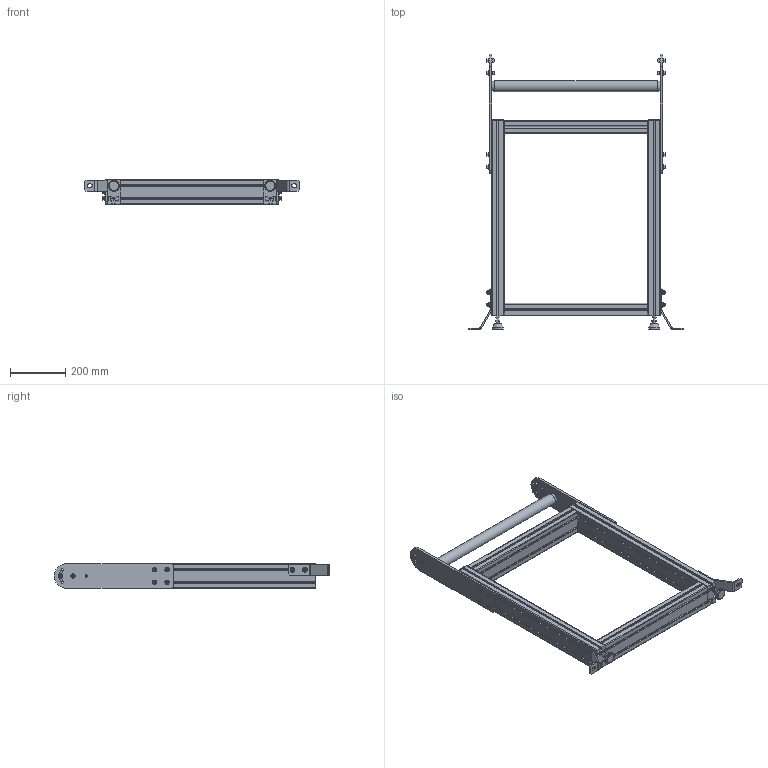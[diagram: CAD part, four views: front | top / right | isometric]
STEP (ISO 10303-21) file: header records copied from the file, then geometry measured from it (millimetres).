
FILE_DESCRIPTION (( 'STEP AP214' ), '1' );
FILE_NAME ('988-008-600.STEP', '2022-10-10T14:14:59', ( '' ), ( '' ), 'SwSTEP 2.0', 'SolidWorks 2022', '' );
FILE_SCHEMA (( 'AUTOMOTIVE_DESIGN' ));
Length unit declared in the file: millimetre
Products named in the file (16): EMBOUT_915-013; CHC M8X20 + RP8; 988-007; 910-002_910-235; 988-008-600; RONDELLE_910-111; CHASSIS JAMBAGE TB100 600_Défaut[Brut d''usinage]; 935-016; CHC THE_910-052H; 935-055; 987-017; 910-100; 982-010-600; 935-055SV; 905-020; 905-021
Assembly tree (28 placements, depth 4):
  988-008-600
    CHASSIS JAMBAGE TB100 600_Défaut[Brut d''usinage]
    935-055  x2
      935-055SV
      910-100
      910-002_910-235
    EMBOUT_915-013  x2
    935-016  x2
    988-007  x2
      987-017
      CHC M8X20 + RP8
        CHC THE_910-052H
        RONDELLE_910-111
      905-021
      905-020
    982-010-600
Bounding box: 776 x 995 x 90 mm (x, y, z)
Volume: 8692573.2 mm3; surface area: 1707415.8 mm2
Topology: 53 solids, 53 shells, 1129 faces, 2737 edges, 1744 vertices
Faces by surface type: plane 746, cylinder 221, cone 128, torus 24, sphere 8, bspline 2
Full cylindrical faces by diameter (mm): 6 x12, 6.8 x16, 7.3 x8, 7.98 x12, 8 x22, 8.4 x12, 8.5 x12, 9 x4, 13 x12, 16 x12, 17 x4, 34 x2, 40 x3
Entity records: 14783 total; most frequent: CARTESIAN_POINT 2582, DIRECTION 2328, ORIENTED_EDGE 2324, EDGE_CURVE 1162, LINE 952, VECTOR 952, VERTEX_POINT 790, AXIS2_PLACEMENT_3D 688
